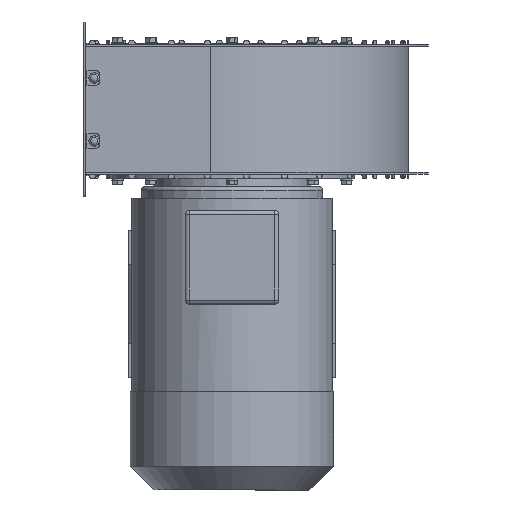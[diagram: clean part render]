
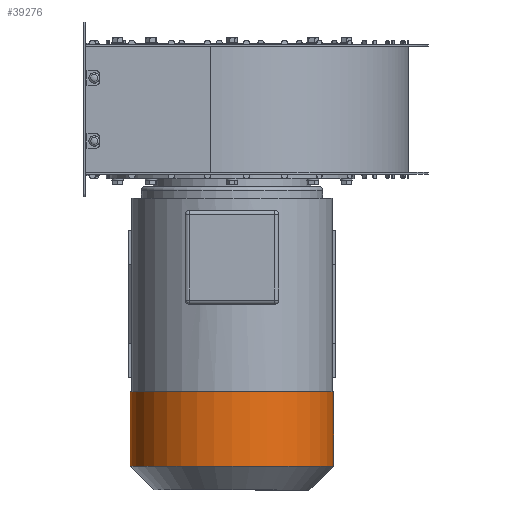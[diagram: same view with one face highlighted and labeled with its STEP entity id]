
A CAD part, front view. The second image highlights one B-rep face of the part: STEP entity #39276.
In plain terms, the highlighted cylindrical face has radius 129 mm (diameter 258 mm), a full revolution.
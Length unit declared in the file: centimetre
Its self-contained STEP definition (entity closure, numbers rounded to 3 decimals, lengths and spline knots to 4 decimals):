
#8201=CYLINDRICAL_SURFACE('',#42383,12.9);
#9006=FACE_BOUND('',#13007,.T.);
#10317=FACE_OUTER_BOUND('',#13006,.T.);
#13006=EDGE_LOOP('',(#30241));
#13007=EDGE_LOOP('',(#30242));
#15352=CIRCLE('',#42381,12.9);
#15354=CIRCLE('',#42384,12.9);
#18139=VERTEX_POINT('',#62788);
#18141=VERTEX_POINT('',#62793);
#22496=EDGE_CURVE('',#18139,#18139,#15352,.T.);
#22498=EDGE_CURVE('',#18141,#18141,#15354,.T.);
#30241=ORIENTED_EDGE('',*,*,#22498,.F.);
#30242=ORIENTED_EDGE('',*,*,#22496,.F.);
#39276=ADVANCED_FACE('',(#10317,#9006),#8201,.T.);
#42381=AXIS2_PLACEMENT_3D('',#62789,#49843,#49844);
#42383=AXIS2_PLACEMENT_3D('',#62792,#49847,#49848);
#42384=AXIS2_PLACEMENT_3D('',#62794,#49849,#49850);
#49843=DIRECTION('center_axis',(0.,0.,
-1.));
#49844=DIRECTION('ref_axis',(-1.,0.,0.));
#49847=DIRECTION('center_axis',(0.,0.,
-1.));
#49848=DIRECTION('ref_axis',(-1.,0.,0.));
#49849=DIRECTION('center_axis',(0.,0.,
1.));
#49850=DIRECTION('ref_axis',(-1.,0.,0.));
#62788=CARTESIAN_POINT('',(12.9,0.,-37.1));
#62789=CARTESIAN_POINT('Origin',(0.,0.,
-37.1));
#62792=CARTESIAN_POINT('Origin',(0.,0.,
-27.6));
#62793=CARTESIAN_POINT('',(12.9,0.,-27.6));
#62794=CARTESIAN_POINT('Origin',(0.,0.,
-27.6));
